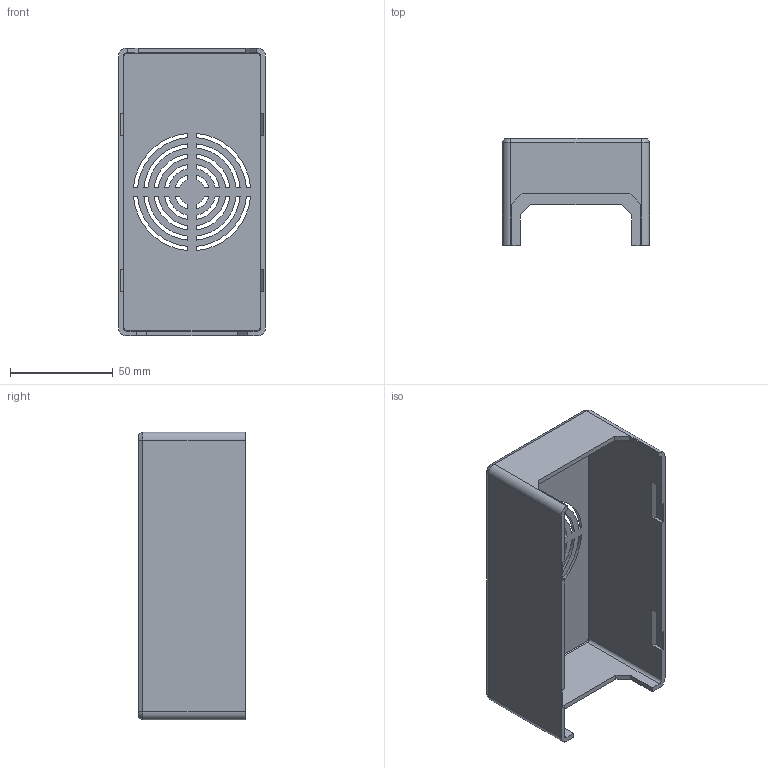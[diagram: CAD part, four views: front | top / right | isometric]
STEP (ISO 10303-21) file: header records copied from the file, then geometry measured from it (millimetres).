
FILE_DESCRIPTION(('CATIA V5 STEP Exchange'),'2;1');
FILE_NAME('D:\_이전 노트북\Cremaker모델링\Cremaker_profile-Metal(5차)-(Final)\Arduino-Cover.stp','2020-10-23T05:23:14+00:00',('none'),('none'),'CATIA Version 5 Release 20 GA (IN-10)','CATIA V5 STEP AP203','none');
FILE_SCHEMA(('CONFIG_CONTROL_DESIGN'));
Length unit declared in the file: millimetre
Products named in the file (1): Arduino-cover
Bounding box: 71.5 x 52 x 140 mm (x, y, z)
Volume: 59797.4 mm3; surface area: 56234.9 mm2
Topology: 1 solids, 1 shells, 229 faces, 589 edges, 362 vertices
Faces by surface type: plane 133, cylinder 48, cone 44, bspline 4
Entity records: 6575 total; most frequent: CARTESIAN_POINT 1419, ORIENTED_EDGE 1178, DIRECTION 809, EDGE_CURVE 589, VERTEX_POINT 362, VECTOR 355, LINE 355, AXIS2_PLACEMENT_3D 296
